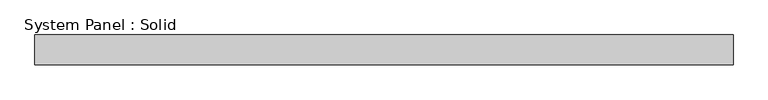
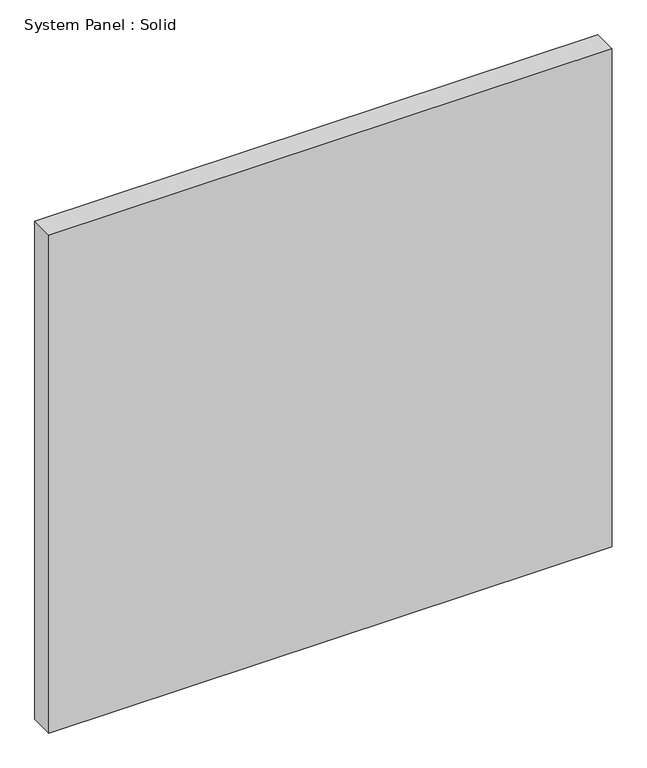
"""IFC4 building model written with IfcOpenShell, lengths in millimetres: plate geometry, System Panel : Solid."""

from ifc_helpers import new_model, si_unit, origin, origin_with_axes, place, context, project, spatial, polyline, outline, extrude, source, transform, mapped, element, save


def system_panel_solid_71fc82a1(model_context):
    return source(origin(), model_context, "Body", "SweptSolid", [
        extrude(outline(polyline([(701.1238281, -49.5), (-701.1238281, -49.5), (-701.1238281, 10.5), (701.1238281, 10.5), (701.1238281, -49.5)])), origin_with_axes(), (0.0, 0.0, 1.0), 1310.0),
    ])


if __name__ == "__main__":
    model = new_model("IFC4")
    model_context = context("Model", 3, world=origin())
    ifc_project = project(units=[si_unit("LENGTHUNIT", "METRE", prefix="MILLI")], contexts=[model_context])
    site = spatial("IfcSite", under=ifc_project)
    building = spatial("IfcBuilding", under=site)
    placement = place(None, origin())
    system_panel_solid_shape = system_panel_solid_71fc82a1(model_context)
    element("IfcPlate", 1, ObjectType="System Panel : Solid", at=placement, inside=building, context=model_context, shape_type="MappedRepresentation", body=[
        mapped(system_panel_solid_shape, transform((0.0, 0.0, 0.0), x_axis=(1.0, 0.0, 0.0), y_axis=(0.0, 1.0, 0.0), z_axis=(0.0, 0.0, 1.0))),
    ])
    save(model, "model.ifc")
